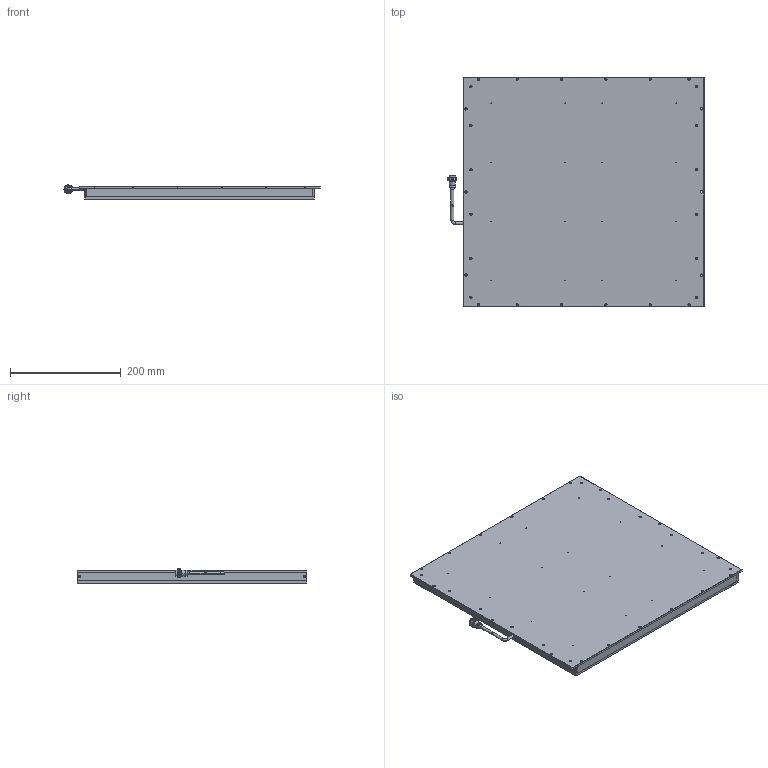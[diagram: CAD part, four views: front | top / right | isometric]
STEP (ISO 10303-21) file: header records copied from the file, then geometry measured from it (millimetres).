
FILE_DESCRIPTION (( 'STEP AP203' ), '1' );
FILE_NAME ('CST-HFS400400-GB-¼òÒ×3DÍ¼.STEP', '2022-04-24T07:00:18', ( '' ), ( '' ), 'SwSTEP 2.0', 'SolidWorks 2018', '' );
FILE_SCHEMA (( 'CONFIG_CONTROL_DESIGN' ));
Length unit declared in the file: millimetre
Products named in the file (1): CST-HFS400400-GB-潠眢3D芞
Bounding box: 461.9 x 414 x 25.49 mm (x, y, z)
Volume: 1831813.7 mm3; surface area: 1115650.4 mm2
Topology: 10 solids, 10 shells, 692 faces, 1752 edges, 1056 vertices
Faces by surface type: cylinder 363, cone 165, plane 160, bspline 2, torus 2
Entity records: 20744 total; most frequent: DIRECTION 3813, CARTESIAN_POINT 3561, ORIENTED_EDGE 3296, EDGE_CURVE 1648, AXIS2_PLACEMENT_3D 1478, VERTEX_POINT 1056, EDGE_LOOP 952, LINE 857
